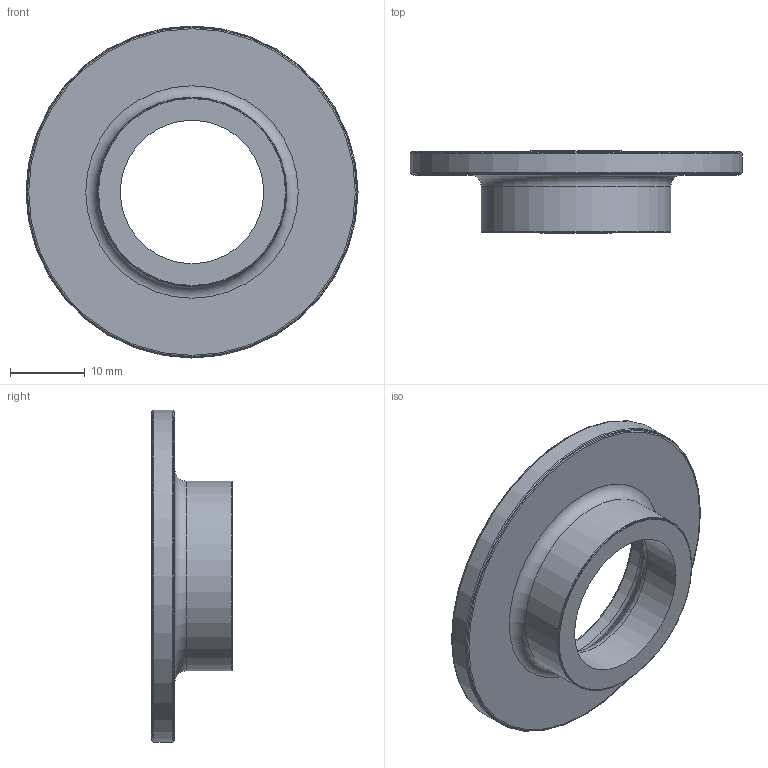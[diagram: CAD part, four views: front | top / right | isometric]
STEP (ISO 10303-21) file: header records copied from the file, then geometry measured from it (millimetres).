
FILE_DESCRIPTION(/* description */ (''),/* implementation_level */ '2;1');
FILE_NAME(/* name */ 'Sleeve.step',/* time_stamp */ '2026-05-22T17:08:26-04:00',/* author */ (''),/* organization */ (''),/* preprocessor_version */ 'ST-DEVELOPER v20.1',/* originating_system */ 'Autodesk Translation Framework v15.8.0.0',/* authorisation */ '');
FILE_SCHEMA (('AUTOMOTIVE_DESIGN { 1 0 10303 214 3 1 1 }'));
Length unit declared in the file: inch
Products named in the file (1): Sleeve
Bounding box: 44.45 x 10.92 x 44.45 mm (x, y, z)
Volume: 5094.5 mm3; surface area: 4083.5 mm2
Topology: 1 solids, 1 shells, 21 faces, 44 edges, 26 vertices
Faces by surface type: torus 10, cylinder 4, cone 4, plane 3
Full cylindrical faces by diameter (mm): 19.202 x1, 24.13 x1, 25.4 x1, 44.45 x1
Entity records: 613 total; most frequent: DIRECTION 124, CARTESIAN_POINT 92, ORIENTED_EDGE 88, AXIS2_PLACEMENT_3D 58, EDGE_CURVE 44, CIRCLE 36, VERTEX_POINT 26, EDGE_LOOP 24
